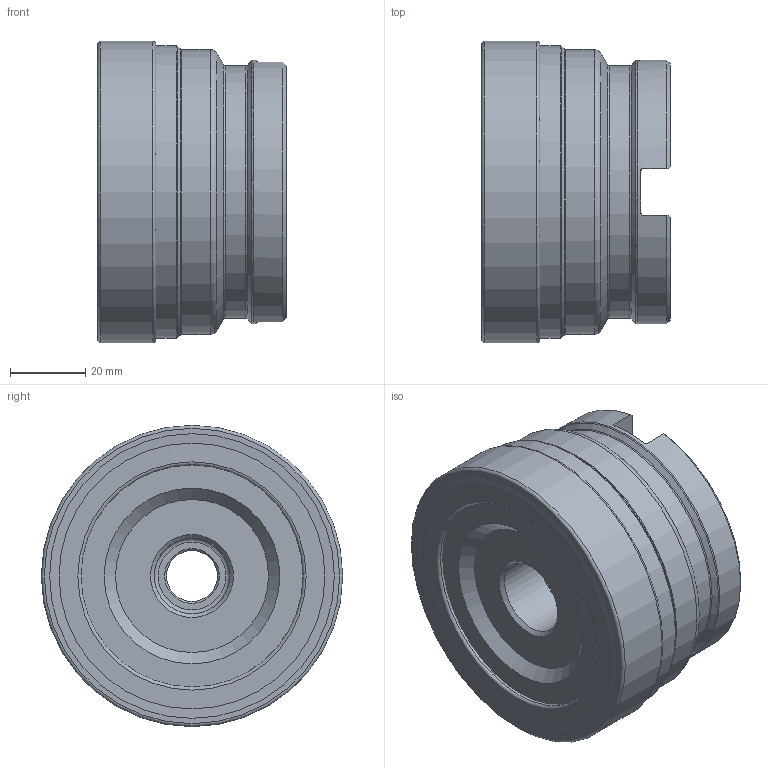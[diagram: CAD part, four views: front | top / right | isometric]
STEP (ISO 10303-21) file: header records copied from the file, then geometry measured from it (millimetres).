
FILE_DESCRIPTION(/* description */ (''),/* implementation_level */ '2;1');
FILE_NAME(/* name */ 'emp13-080-a27-an15-06c.stp',/* time_stamp */ '2018-11-20T13:45:42+08:00',/* author */ (''),/* organization */ (''),/* preprocessor_version */ 'ST-DEVELOPER v11',/* originating_system */ 'UGS - NX 5.0',/* authorisation */ '');
FILE_SCHEMA (('CONFIG_CONTROL_DESIGN'));
Length unit declared in the file: millimetre
Products named in the file (1): wang4F8Ch1tk
Bounding box: 50 x 79.9 x 79.9 mm (x, y, z)
Volume: 215448.3 mm3; surface area: 34799.3 mm2
Topology: 2 solids, 2 shells, 68 faces, 159 edges, 100 vertices
Faces by surface type: plane 23, torus 16, cone 15, cylinder 14
Full cylindrical faces by diameter (mm): 13.5 x1, 20 x1, 27 x1, 29 x1, 58.9 x1, 67 x1, 70 x1, 75.6 x1, 77.6 x1, 79.9 x1
Entity records: 1928 total; most frequent: CARTESIAN_POINT 513, DIRECTION 280, ORIENTED_EDGE 222, AXIS2_PLACEMENT_3D 128, EDGE_LOOP 112, EDGE_CURVE 111, FACE_BOUND 88, VERTEX_POINT 87
